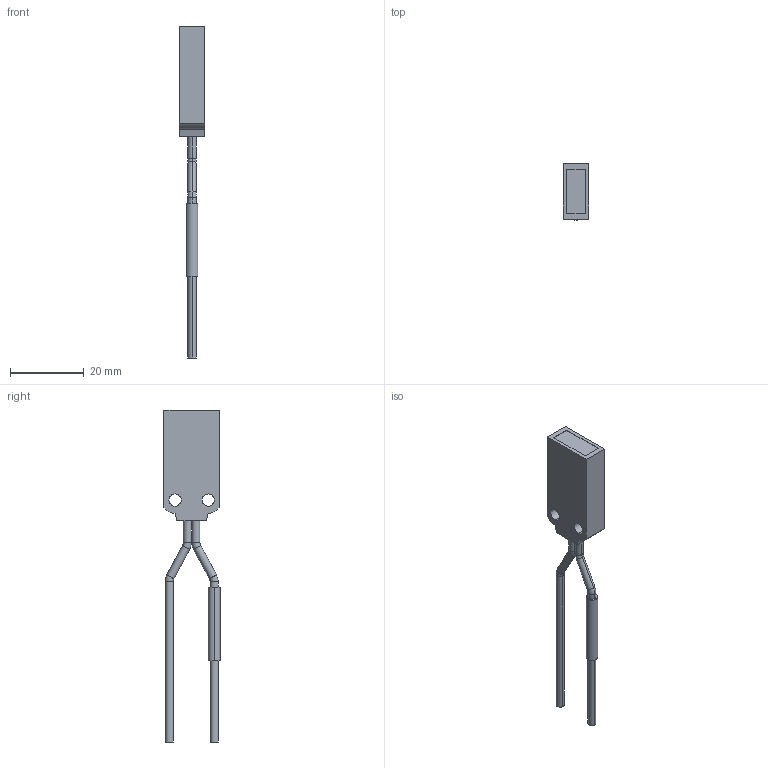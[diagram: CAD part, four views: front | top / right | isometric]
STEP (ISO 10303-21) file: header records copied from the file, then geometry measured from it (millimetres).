
FILE_DESCRIPTION (( 'STEP AP203' ), '1' );
FILE_NAME ('FD-A15.STEP', '2005-09-04T09:14:24', ( '川島良英' ), ( ' ' ), 'SwSTEP 2.0', 'SolidWorks 2004251', '' );
FILE_SCHEMA (( 'CONFIG_CONTROL_DESIGN' ));
Length unit declared in the file: millimetre
Products named in the file (1): FD-A15
Bounding box: 7 x 15.2 x 90 mm (x, y, z)
Volume: 3463.2 mm3; surface area: 2508.6 mm2
Topology: 1 solids, 1 shells, 47 faces, 104 edges, 64 vertices
Faces by surface type: cylinder 22, plane 17, torus 8
Entity records: 1387 total; most frequent: DIRECTION 252, CARTESIAN_POINT 216, ORIENTED_EDGE 208, EDGE_CURVE 104, AXIS2_PLACEMENT_3D 100, VERTEX_POINT 64, EDGE_LOOP 56, VECTOR 52
